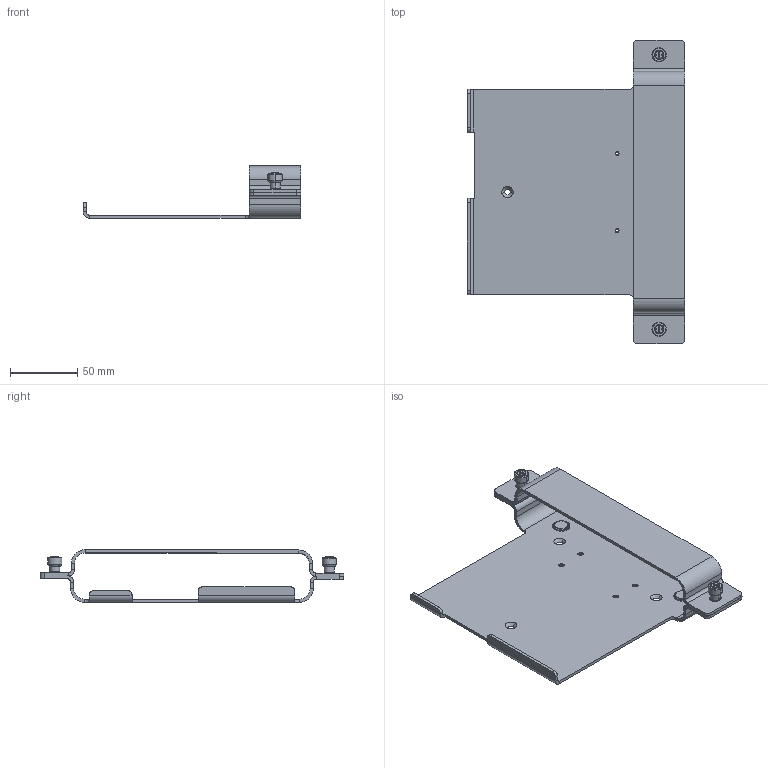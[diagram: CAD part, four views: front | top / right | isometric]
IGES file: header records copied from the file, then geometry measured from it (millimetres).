
Start section:  PTC IGES file: cu_usb-x-series-wall_mount.igs
Global section: file name: cu_usb-x-series-wall_mount.igs; native system: Pro/ENGINEER by Parametric Technology Corporation; preprocessor: 2006510; author: dkendric; organization: Unknown; date: 20100831.111259; units: inch
Bounding box: 161.29 x 225.09 x 38.89 mm (x, y, z)
Surface area: 78162.9 mm2 (no closed solid volume)
Topology: 0 solids, 0 shells, 383 faces, 1756 edges, 1752 vertices
Faces by surface type: revolution 238, bspline 145
